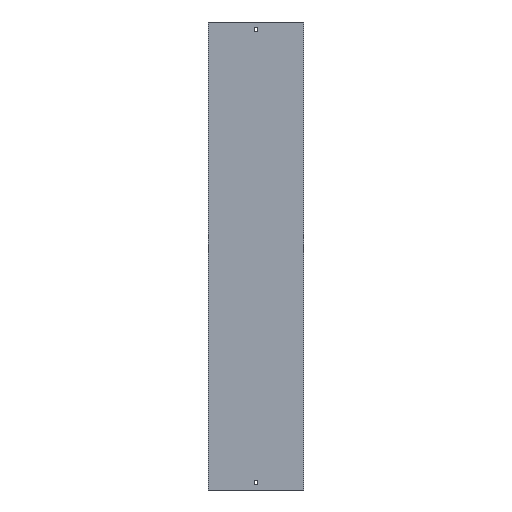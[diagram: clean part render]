
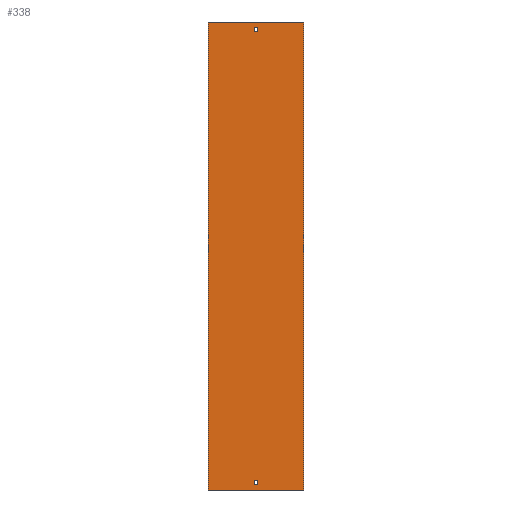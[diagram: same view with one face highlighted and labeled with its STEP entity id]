
A CAD part, front view. The second image highlights one B-rep face of the part: STEP entity #338.
In plain terms, the highlighted planar face has unit normal (0, -1, 0).
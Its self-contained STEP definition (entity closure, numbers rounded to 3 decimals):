
#15 = DIRECTION ( 'NONE',  ( -1., 0., 0. ) ) ;
#18 = LINE ( 'NONE', #1059, #1034 ) ;
#50 = CARTESIAN_POINT ( 'NONE',  ( 102., 0., -500. ) ) ;
#61 = VECTOR ( 'NONE', #1308, 1000. ) ;
#87 = ORIENTED_EDGE ( 'NONE', *, *, #1053, .F. ) ;
#90 = VECTOR ( 'NONE', #1467, 1000. ) ;
#135 = CARTESIAN_POINT ( 'NONE',  ( -3.25, 0., 479. ) ) ;
#139 = VECTOR ( 'NONE', #484, 1000. ) ;
#142 = VERTEX_POINT ( 'NONE', #846 ) ;
#144 = DIRECTION ( 'NONE',  ( 0., 0., -1. ) ) ;
#150 = VERTEX_POINT ( 'NONE', #1378 ) ;
#151 = DIRECTION ( 'NONE',  ( 0., 0., -1. ) ) ;
#161 = LINE ( 'NONE', #664, #90 ) ;
#166 = DIRECTION ( 'NONE',  ( -1., 0., 0. ) ) ;
#182 = EDGE_CURVE ( 'NONE', #453, #567, #320, .T. ) ;
#203 = EDGE_CURVE ( 'NONE', #920, #1486, #18, .T. ) ;
#215 = LINE ( 'NONE', #745, #581 ) ;
#216 = CARTESIAN_POINT ( 'NONE',  ( -3.25, 0., -488. ) ) ;
#226 = CARTESIAN_POINT ( 'NONE',  ( -102., 0., 500. ) ) ;
#237 = LINE ( 'NONE', #1177, #1338 ) ;
#240 = CARTESIAN_POINT ( 'NONE',  ( 102., 0., 500. ) ) ;
#241 = ORIENTED_EDGE ( 'NONE', *, *, #833, .F. ) ;
#302 = LINE ( 'NONE', #1620, #468 ) ;
#320 = LINE ( 'NONE', #611, #139 ) ;
#338 = ADVANCED_FACE ( 'NONE', ( #1558, #1189, #1140 ), #492, .F. ) ;
#372 = ORIENTED_EDGE ( 'NONE', *, *, #780, .T. ) ;
#394 = CARTESIAN_POINT ( 'NONE',  ( -102., 0., 500. ) ) ;
#398 = LINE ( 'NONE', #773, #1524 ) ;
#404 = ORIENTED_EDGE ( 'NONE', *, *, #1642, .T. ) ;
#426 = CARTESIAN_POINT ( 'NONE',  ( -3.25, 0., 488. ) ) ;
#453 = VERTEX_POINT ( 'NONE', #226 ) ;
#464 = CARTESIAN_POINT ( 'NONE',  ( -102., 0., -500. ) ) ;
#468 = VECTOR ( 'NONE', #694, 1000. ) ;
#484 = DIRECTION ( 'NONE',  ( 1., 0., 0. ) ) ;
#489 = VERTEX_POINT ( 'NONE', #1005 ) ;
#492 = PLANE ( 'NONE',  #790 ) ;
#518 = VERTEX_POINT ( 'NONE', #216 ) ;
#567 = VERTEX_POINT ( 'NONE', #240 ) ;
#581 = VECTOR ( 'NONE', #1374, 1000. ) ;
#588 = DIRECTION ( 'NONE',  ( 0., 1., 0. ) ) ;
#611 = CARTESIAN_POINT ( 'NONE',  ( -102., 0., 500. ) ) ;
#618 = ORIENTED_EDGE ( 'NONE', *, *, #203, .T. ) ;
#651 = ORIENTED_EDGE ( 'NONE', *, *, #1499, .F. ) ;
#664 = CARTESIAN_POINT ( 'NONE',  ( -3.25, 0., 488. ) ) ;
#694 = DIRECTION ( 'NONE',  ( 0., 0., 1. ) ) ;
#708 = CARTESIAN_POINT ( 'NONE',  ( -3.25, 0., 488. ) ) ;
#744 = ORIENTED_EDGE ( 'NONE', *, *, #1506, .F. ) ;
#745 = CARTESIAN_POINT ( 'NONE',  ( 3.25, 0., -488. ) ) ;
#756 = VERTEX_POINT ( 'NONE', #814 ) ;
#773 = CARTESIAN_POINT ( 'NONE',  ( -3.25, 0., -479. ) ) ;
#775 = LINE ( 'NONE', #135, #61 ) ;
#780 = EDGE_CURVE ( 'NONE', #518, #1651, #302, .T. ) ;
#790 = AXIS2_PLACEMENT_3D ( 'NONE', #394, #588, #166 ) ;
#800 = ORIENTED_EDGE ( 'NONE', *, *, #868, .T. ) ;
#814 = CARTESIAN_POINT ( 'NONE',  ( 3.25, 0., 488. ) ) ;
#818 = LINE ( 'NONE', #1589, #854 ) ;
#832 = CARTESIAN_POINT ( 'NONE',  ( 102., 0., 500. ) ) ;
#833 = EDGE_CURVE ( 'NONE', #489, #756, #966, .T. ) ;
#843 = VERTEX_POINT ( 'NONE', #708 ) ;
#846 = CARTESIAN_POINT ( 'NONE',  ( -3.25, 0., 479. ) ) ;
#854 = VECTOR ( 'NONE', #151, 1000. ) ;
#868 = EDGE_CURVE ( 'NONE', #1111, #150, #215, .T. ) ;
#918 = DIRECTION ( 'NONE',  ( 1., 0., 0. ) ) ;
#920 = VERTEX_POINT ( 'NONE', #464 ) ;
#927 = LINE ( 'NONE', #832, #1204 ) ;
#941 = CARTESIAN_POINT ( 'NONE',  ( 3.25, 0., 488. ) ) ;
#966 = LINE ( 'NONE', #941, #1471 ) ;
#975 = ORIENTED_EDGE ( 'NONE', *, *, #182, .F. ) ;
#1005 = CARTESIAN_POINT ( 'NONE',  ( 3.25, 0., 479. ) ) ;
#1034 = VECTOR ( 'NONE', #1447, 1000. ) ;
#1040 = EDGE_CURVE ( 'NONE', #150, #518, #237, .T. ) ;
#1041 = ORIENTED_EDGE ( 'NONE', *, *, #1557, .F. ) ;
#1053 = EDGE_CURVE ( 'NONE', #142, #489, #775, .T. ) ;
#1059 = CARTESIAN_POINT ( 'NONE',  ( -102., 0., -500. ) ) ;
#1073 = CARTESIAN_POINT ( 'NONE',  ( -3.25, 0., -479. ) ) ;
#1111 = VERTEX_POINT ( 'NONE', #1671 ) ;
#1140 = FACE_BOUND ( 'NONE', #1611, .T. ) ;
#1177 = CARTESIAN_POINT ( 'NONE',  ( -3.25, 0., -488. ) ) ;
#1189 = FACE_BOUND ( 'NONE', #1637, .T. ) ;
#1204 = VECTOR ( 'NONE', #1347, 1000. ) ;
#1308 = DIRECTION ( 'NONE',  ( 1., 0., 0. ) ) ;
#1338 = VECTOR ( 'NONE', #15, 1000. ) ;
#1347 = DIRECTION ( 'NONE',  ( 0., 0., -1. ) ) ;
#1374 = DIRECTION ( 'NONE',  ( 0., 0., -1. ) ) ;
#1378 = CARTESIAN_POINT ( 'NONE',  ( 3.25, 0., -488. ) ) ;
#1443 = VECTOR ( 'NONE', #144, 1000. ) ;
#1444 = EDGE_CURVE ( 'NONE', #1651, #1111, #398, .T. ) ;
#1447 = DIRECTION ( 'NONE',  ( 1., 0., 0. ) ) ;
#1467 = DIRECTION ( 'NONE',  ( -1., 0., 0. ) ) ;
#1471 = VECTOR ( 'NONE', #1484, 1000. ) ;
#1484 = DIRECTION ( 'NONE',  ( 0., 0., 1. ) ) ;
#1486 = VERTEX_POINT ( 'NONE', #50 ) ;
#1496 = ORIENTED_EDGE ( 'NONE', *, *, #1040, .T. ) ;
#1499 = EDGE_CURVE ( 'NONE', #756, #843, #161, .T. ) ;
#1506 = EDGE_CURVE ( 'NONE', #567, #1486, #927, .T. ) ;
#1524 = VECTOR ( 'NONE', #918, 1000. ) ;
#1533 = ORIENTED_EDGE ( 'NONE', *, *, #1444, .T. ) ;
#1557 = EDGE_CURVE ( 'NONE', #843, #142, #1568, .T. ) ;
#1558 = FACE_OUTER_BOUND ( 'NONE', #1572, .T. ) ;
#1568 = LINE ( 'NONE', #426, #1443 ) ;
#1572 = EDGE_LOOP ( 'NONE', ( #618, #744, #975, #404 ) ) ;
#1589 = CARTESIAN_POINT ( 'NONE',  ( -102., 0., 500. ) ) ;
#1611 = EDGE_LOOP ( 'NONE', ( #372, #1533, #800, #1496 ) ) ;
#1620 = CARTESIAN_POINT ( 'NONE',  ( -3.25, 0., -488. ) ) ;
#1637 = EDGE_LOOP ( 'NONE', ( #87, #1041, #651, #241 ) ) ;
#1642 = EDGE_CURVE ( 'NONE', #453, #920, #818, .T. ) ;
#1651 = VERTEX_POINT ( 'NONE', #1073 ) ;
#1671 = CARTESIAN_POINT ( 'NONE',  ( 3.25, 0., -479. ) ) ;
